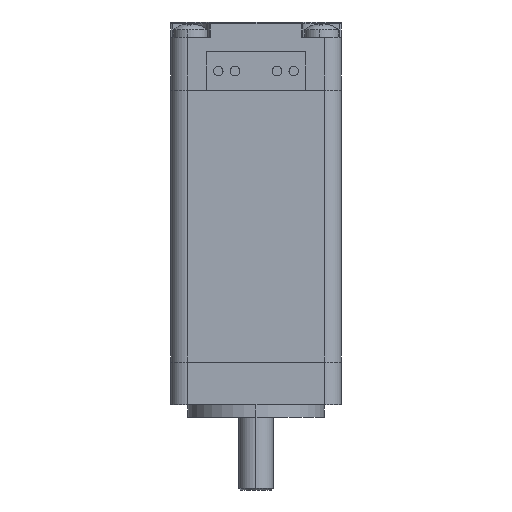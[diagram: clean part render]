
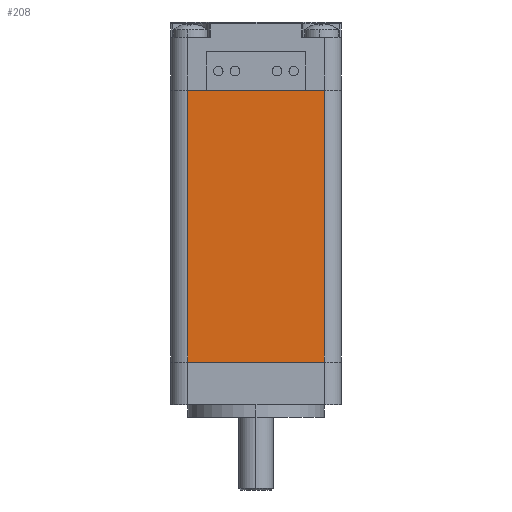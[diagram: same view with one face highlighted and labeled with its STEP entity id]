
A CAD part, front view. The second image highlights one B-rep face of the part: STEP entity #208.
In plain terms, the highlighted planar face has unit normal (0, -1, 0).
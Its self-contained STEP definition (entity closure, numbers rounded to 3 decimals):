
#11 = EDGE_CURVE ( 'NONE', #1398, #520, #5993, .T. ) ;
#48 = CARTESIAN_POINT ( 'NONE',  ( -8., -10., 0. ) ) ;
#97 = EDGE_CURVE ( 'NONE', #3514, #1398, #1024, .T. ) ;
#154 = EDGE_CURVE ( 'NONE', #1236, #3514, #2464, .T. ) ;
#157 = VECTOR ( 'NONE', #3795, 1000. ) ;
#208 = ADVANCED_FACE ( 'NONE', ( #3306 ), #2907, .F. ) ;
#520 = VERTEX_POINT ( 'NONE', #4644 ) ;
#700 = EDGE_CURVE ( 'NONE', #1236, #520, #5755, .T. ) ;
#1024 = LINE ( 'NONE', #4816, #4519 ) ;
#1107 = EDGE_LOOP ( 'NONE', ( #4319, #5573, #5430, #3408 ) ) ;
#1236 = VERTEX_POINT ( 'NONE', #3181 ) ;
#1297 = AXIS2_PLACEMENT_3D ( 'NONE', #2730, #2790, #2785 ) ;
#1398 = VERTEX_POINT ( 'NONE', #2983 ) ;
#2464 = LINE ( 'NONE', #3843, #157 ) ;
#2730 = CARTESIAN_POINT ( 'NONE',  ( 10., -10., 15.05 ) ) ;
#2785 = DIRECTION ( 'NONE',  ( -1., 0., 0. ) ) ;
#2790 = DIRECTION ( 'NONE',  ( 0., 1., 0. ) ) ;
#2907 = PLANE ( 'NONE',  #1297 ) ;
#2983 = CARTESIAN_POINT ( 'NONE',  ( 8., -10., 0. ) ) ;
#3181 = CARTESIAN_POINT ( 'NONE',  ( -8., -10., 31.85 ) ) ;
#3306 = FACE_OUTER_BOUND ( 'NONE', #1107, .T. ) ;
#3408 = ORIENTED_EDGE ( 'NONE', *, *, #11, .T. ) ;
#3514 = VERTEX_POINT ( 'NONE', #48 ) ;
#3795 = DIRECTION ( 'NONE',  ( 0., 0., -1. ) ) ;
#3843 = CARTESIAN_POINT ( 'NONE',  ( -8., -10., 15.05 ) ) ;
#3968 = DIRECTION ( 'NONE',  ( 1., 0., 0. ) ) ;
#4319 = ORIENTED_EDGE ( 'NONE', *, *, #700, .F. ) ;
#4519 = VECTOR ( 'NONE', #3968, 1000. ) ;
#4577 = VECTOR ( 'NONE', #5985, 1000. ) ;
#4644 = CARTESIAN_POINT ( 'NONE',  ( 8., -10., 31.85 ) ) ;
#4816 = CARTESIAN_POINT ( 'NONE',  ( 10., -10., 0. ) ) ;
#5408 = DIRECTION ( 'NONE',  ( 1., 0., 0. ) ) ;
#5429 = CARTESIAN_POINT ( 'NONE',  ( 10., -10., 31.85 ) ) ;
#5430 = ORIENTED_EDGE ( 'NONE', *, *, #97, .T. ) ;
#5573 = ORIENTED_EDGE ( 'NONE', *, *, #154, .T. ) ;
#5755 = LINE ( 'NONE', #5429, #5769 ) ;
#5769 = VECTOR ( 'NONE', #5408, 1000. ) ;
#5985 = DIRECTION ( 'NONE',  ( 0., 0., 1. ) ) ;
#5993 = LINE ( 'NONE', #6049, #4577 ) ;
#6049 = CARTESIAN_POINT ( 'NONE',  ( 8., -10., 15.05 ) ) ;
